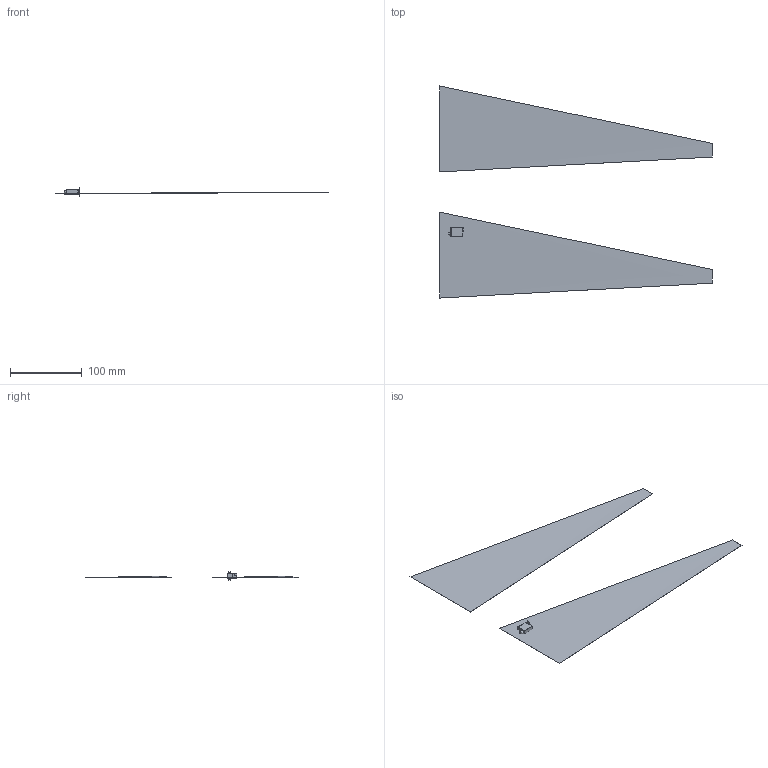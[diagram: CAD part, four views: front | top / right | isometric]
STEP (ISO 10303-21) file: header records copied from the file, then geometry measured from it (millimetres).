
FILE_DESCRIPTION(/* description */ (''),/* implementation_level */ '2;1');
FILE_NAME(/* name */ 'AIRES ULTRA PRO - WING NHX021E STEP',/* time_stamp */ '2022-06-03T13:43:03-07:00',/* author */ (''),/* organization */ (''),/* preprocessor_version */ 'ST-DEVELOPER v10',/* originating_system */ '',/* authorisation */ '');
FILE_SCHEMA (('CONFIG_CONTROL_DESIGN'));
Length unit declared in the file: millimetre
Products named in the file (2): 1; 2
Assembly tree (1 placements, depth 2):
  1
    2
Bounding box: 380 x 296 x 11.19 mm (x, y, z)
Volume: 116290.1 mm3; surface area: 160039.7 mm2
Topology: 3 solids, 4 shells, 72 faces, 355 edges, 306 vertices
Faces by surface type: bspline 39, plane 33
Entity records: 245809 total; most frequent: CARTESIAN_POINT 244164, ORIENTED_EDGE 340, B_SPLINE_CURVE_WITH_KNOTS 229, EDGE_CURVE 173, VERTEX_POINT 112, DIRECTION 110, EDGE_LOOP 82, ADVANCED_FACE 72
